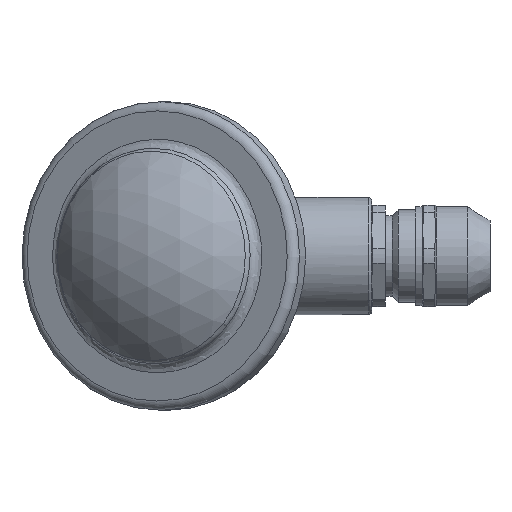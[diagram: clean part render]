
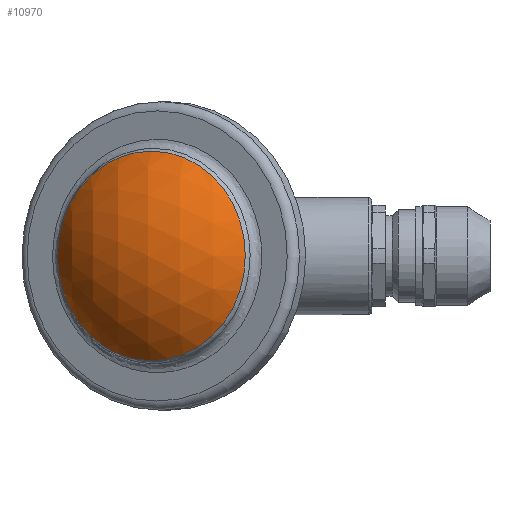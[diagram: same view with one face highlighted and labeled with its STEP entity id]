
A CAD part, top view. The second image highlights one B-rep face of the part: STEP entity #10970.
In plain terms, the highlighted spherical face has radius 32.84 mm.
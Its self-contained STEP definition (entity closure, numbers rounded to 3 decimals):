
#45=SPHERICAL_SURFACE('',#11557,32.84);
#1313=FACE_OUTER_BOUND('',#1967,.T.);
#1967=EDGE_LOOP('',(#9947));
#4467=CIRCLE('',#11556,22.756);
#5464=VERTEX_POINT('',#22334);
#6980=EDGE_CURVE('',#5464,#5464,#4467,.T.);
#9947=ORIENTED_EDGE('',*,*,#6980,.F.);
#10970=ADVANCED_FACE('',(#1313),#45,.T.);
#11556=AXIS2_PLACEMENT_3D('',#22336,#13578,#13579);
#11557=AXIS2_PLACEMENT_3D('',#22337,#13580,#13581);
#13578=DIRECTION('center_axis',(0.444,0.,
-0.896));
#13579=DIRECTION('ref_axis',(-0.896,0.,-0.444));
#13580=DIRECTION('center_axis',(1.,0.,0.));
#13581=DIRECTION('ref_axis',(0.,0.001,
1.));
#22334=CARTESIAN_POINT('',(15.586,0.,86.308));
#22336=CARTESIAN_POINT('Origin',(-4.808,0.,
76.212));
#22337=CARTESIAN_POINT('Origin',(5.696,0.,
54.993));
